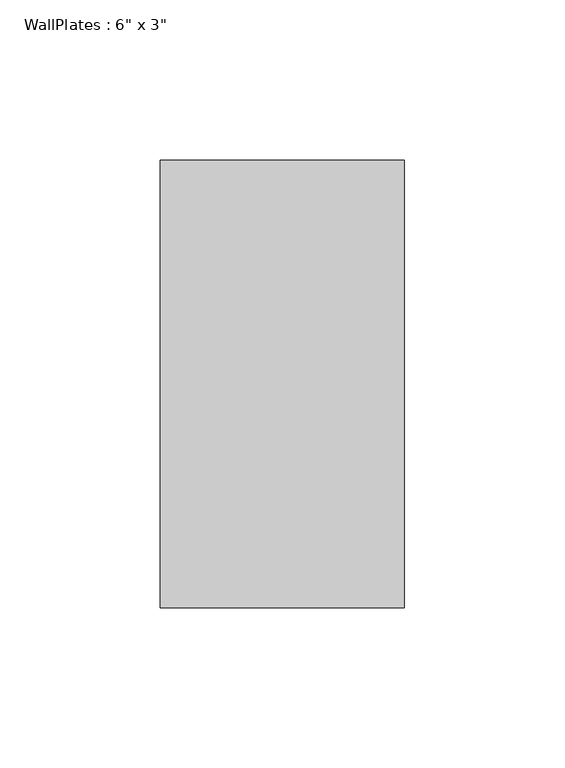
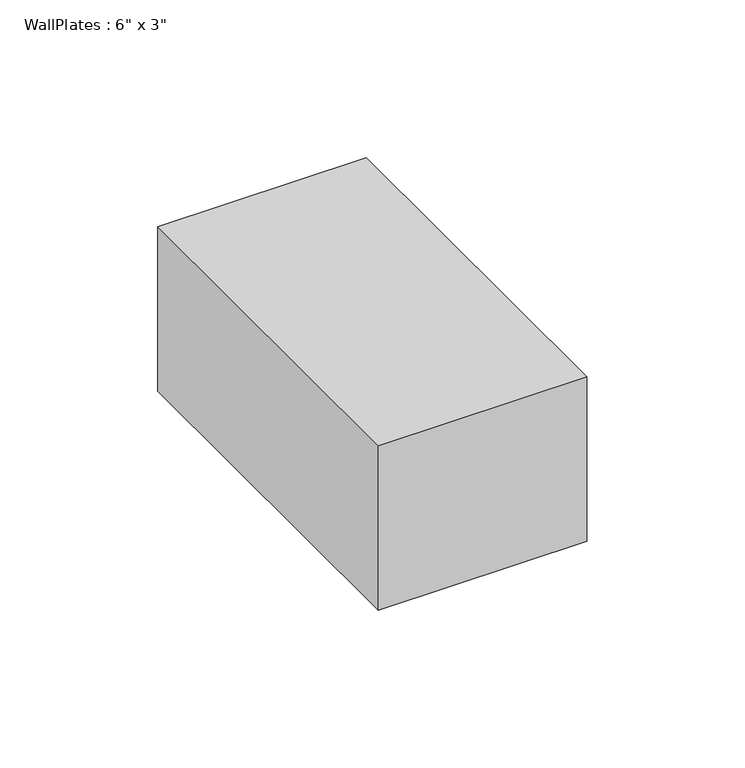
"""IFC4 building model written with IfcOpenShell, lengths in millimetres: beam geometry."""

from ifc_helpers import new_model, si_unit, frame, origin, place, context, project, spatial, polyline, outline, extrude, source, transform, mapped, element, save


def beam_97ee1fa4(model_context):
    return source(origin(), model_context, "Body", "SweptSolid", [
        extrude(outline(polyline([(-38.1, -69.85), (-38.1, 69.85), (38.1, 69.85), (38.1, -69.85), (-38.1, -69.85)])), frame((0.0, 0.0, -31.75), z_axis=(0.0, 0.0, 1.0), x_axis=(1.0, 0.0, 0.0)), (0.0, 0.0, 1.0), 63.5),
    ])


if __name__ == "__main__":
    model = new_model("IFC4")
    model_context = context("Model", 3, world=origin())
    ifc_project = project(units=[si_unit("LENGTHUNIT", "METRE", prefix="MILLI")], contexts=[model_context])
    site = spatial("IfcSite", under=ifc_project)
    building = spatial("IfcBuilding", under=site)
    placement = place(None, origin())
    beam_shape = beam_97ee1fa4(model_context)
    element("IfcBeam", 1, ObjectType="WallPlates : 6\" x 3\"", at=placement, inside=building, context=model_context, shape_type="MappedRepresentation", body=[
        mapped(beam_shape, transform((0.0, 0.0, 0.0), x_axis=(1.0, 0.0, 0.0), y_axis=(0.0, 1.0, 0.0), z_axis=(0.0, 0.0, 1.0))),
    ])
    save(model, "model.ifc")
